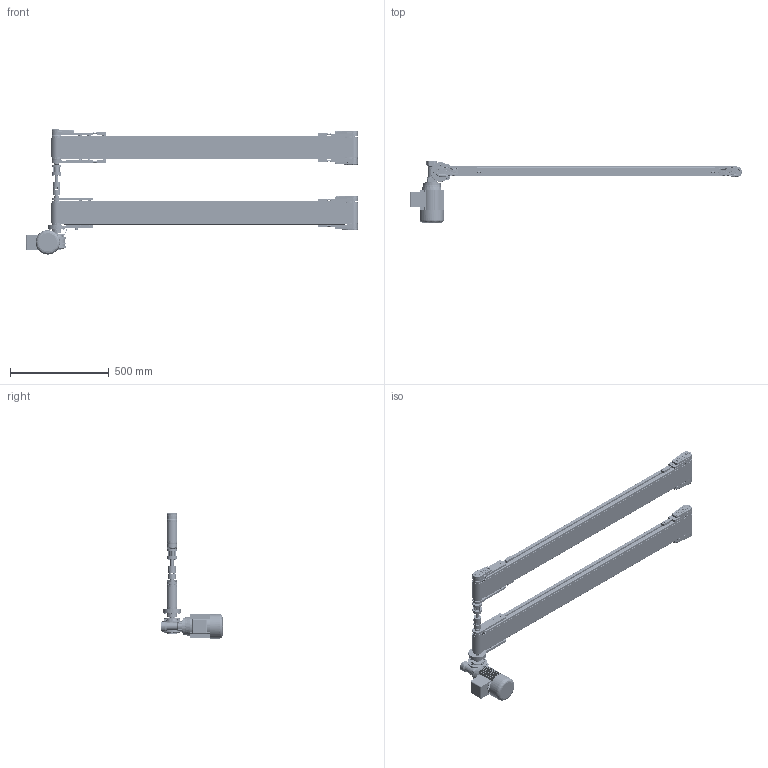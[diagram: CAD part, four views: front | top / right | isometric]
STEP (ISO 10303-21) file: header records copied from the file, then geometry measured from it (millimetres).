
FILE_DESCRIPTION (( 'STEP AP203' ), '1' );
FILE_NAME ('NASTRO_PISTE_PARALLELE.step', '2026-04-27T07:21:21', ( 'Utente Windows' ), ( '' ), 'SwSTEP 2.0', 'SolidWorks 2024', '' );
FILE_SCHEMA (( 'CONFIG_CONTROL_DESIGN' ));
Length unit declared in the file: millimetre
Products named in the file (37): 084.802.071; 084.815.101_Default<A macchina>; 084.815.112; 084.802.034_084.802.034; 084.807.013_084.807.003; 084.811.005; 084.803.018; 084.811.006; PERNO_INTERNASTRO_CALETTATORE; 084.802.062; VITI TCEI UNI 5931_M6x12 UNI 5931; NASTRO_PISTE_PARALLELE; D50_L100_TAPPETO_RINVIO_CORTO; 084.802.066_Default<A macchina>; 084.302.000 DADI ALUSIC 13x13_084.302.004; VITI TCEI UNI 5931_M4x12 UNI 5931; PERNO_INTERNASTRO_Default<A macchina>; 084.807.001_084.807.001; TELAIO_45X120_Default<A macchina>; LAMIERA_STANDARD; 084.811.012; 084.810.001; 084.000.A47_VF30P V2; 084.301.000 VITI ALUSIC_084.301.003; D50_L100_TAPPETO_TRAINO_PISTA_DOPPIA_DX; D50_L100_TAPPETO_TRAINO_LATO_FOLLE_SX; 084.802.065_Default<A macchina>; PERNO_INTERNASTRO_GIUNTO; TAPPETO_STANDARD; 084.802.060_Default<A macchina>; VITI TCEI UNI 5931_M4x25 UNI 5931; CH04P_DX; 084.807.002_084.807.002; 084.802.017_084.802.017; VITI TE UNI 5739_M6x16 UNI 5739; 084.808.012; 084.802.008
Assembly tree (99 placements, depth 4):
  NASTRO_PISTE_PARALLELE
    TAPPETO_STANDARD  x2
    LAMIERA_STANDARD  x2
    TELAIO_45X120_Default<A macchina>  x2
    D50_L100_TAPPETO_TRAINO_PISTA_DOPPIA_DX
      084.301.000 VITI ALUSIC_084.301.003  x4
      084.302.000 DADI ALUSIC 13x13_084.302.004  x4
      084.811.012
      084.811.006
      084.807.002_084.807.002
      084.802.017_084.802.017
      084.807.001_084.807.001
      084.802.034_084.802.034
      084.810.001  x2
      084.815.101_Default<A macchina>
      084.000.A47_VF30P V2
        084.808.012
        084.802.062
        084.803.018
        VITI TCEI UNI 5931_M6x12 UNI 5931  x4
        VITI TE UNI 5739_M6x16 UNI 5739  x4
        084.802.060_Default<A macchina>
    D50_L100_TAPPETO_RINVIO_CORTO  x2
      084.301.000 VITI ALUSIC_084.301.003
      084.302.000 DADI ALUSIC 13x13_084.302.004
      084.807.013_084.807.003
      084.802.017_084.802.017
      084.802.008
      084.802.071
      084.815.112
      084.802.065_Default<A macchina>
      084.802.066_Default<A macchina>
      VITI TCEI UNI 5931_M4x12 UNI 5931
      VITI TCEI UNI 5931_M4x25 UNI 5931
    CH04P_DX
    PERNO_INTERNASTRO_Default<A macchina>
    PERNO_INTERNASTRO_CALETTATORE
    PERNO_INTERNASTRO_GIUNTO
    D50_L100_TAPPETO_TRAINO_LATO_FOLLE_SX
      084.301.000 VITI ALUSIC_084.301.003  x6
      084.302.000 DADI ALUSIC 13x13_084.302.004  x6
      084.811.005
      084.811.012
      084.807.002_084.807.002  x2
      084.802.017_084.802.017  x2
      084.802.008  x2
      084.810.001  x2
      084.815.101_Default<A macchina>
      084.802.071
Bounding box: 1681.6 x 311 x 633.5 mm (x, y, z)
Volume: 10708380.3 mm3; surface area: 6048237.6 mm2
Topology: 150 solids, 163 shells, 7944 faces, 20206 edges, 12828 vertices
Faces by surface type: plane 3711, cylinder 1960, bspline 879, cone 749, torus 541, sphere 104
Entity records: 119654 total; most frequent: CARTESIAN_POINT 36960, ORIENTED_EDGE 16520, DIRECTION 15669, EDGE_CURVE 8260, AXIS2_PLACEMENT_3D 5778, VERTEX_POINT 5242, LINE 4113, VECTOR 4113
